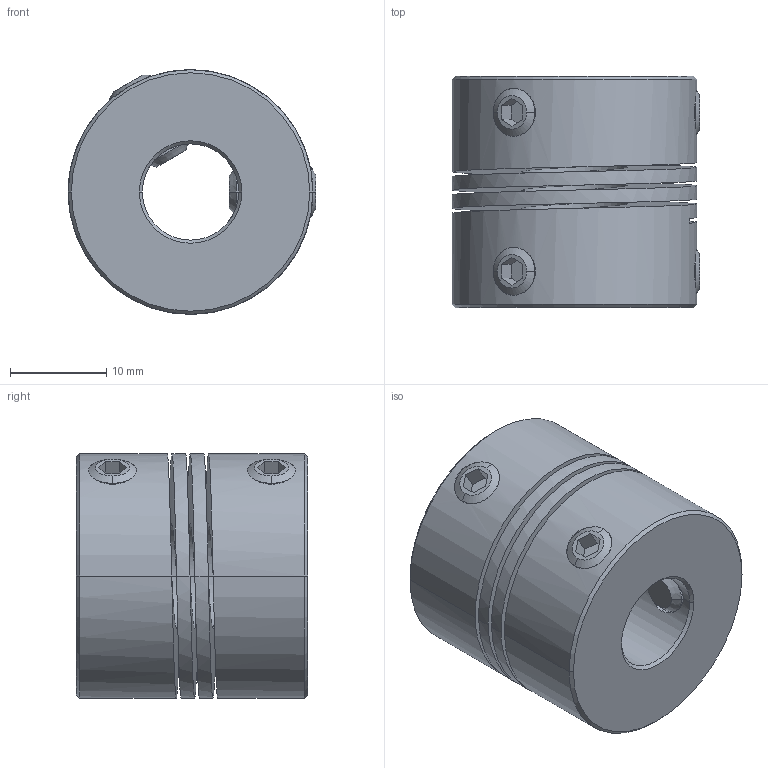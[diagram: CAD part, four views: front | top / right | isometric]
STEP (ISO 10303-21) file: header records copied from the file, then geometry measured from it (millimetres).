
FILE_DESCRIPTION((''),'2;1');
FILE_NAME('820_25_ASM','2006-12-06T',('Gary Melling'),(''),'PRO/ENGINEER BY PARAMETRIC TECHNOLOGY CORPORATION, 2006240','PRO/ENGINEER BY PARAMETRIC TECHNOLOGY CORPORATION, 2006240','');
FILE_SCHEMA(('CONFIG_CONTROL_DESIGN'));
Length unit declared in the file: millimetre
Products named in the file (3): 820_25; GS_5M; 820_25_ASM
Assembly tree (5 placements, depth 2):
  820_25_ASM
    820_25
    GS_5M  x4
Bounding box: 25.7 x 24 x 25.4 mm (x, y, z)
Volume: 9492.1 mm3; surface area: 7050 mm2
Topology: 5 solids, 5 shells, 104 faces, 258 edges, 164 vertices
Faces by surface type: plane 42, cylinder 36, cone 24, bspline 2
Entity records: 3280 total; most frequent: CARTESIAN_POINT 1743, ORIENTED_EDGE 324, DIRECTION 268, EDGE_CURVE 162, VERTEX_POINT 104, AXIS2_PLACEMENT_3D 97, VECTOR 74, LINE 74
